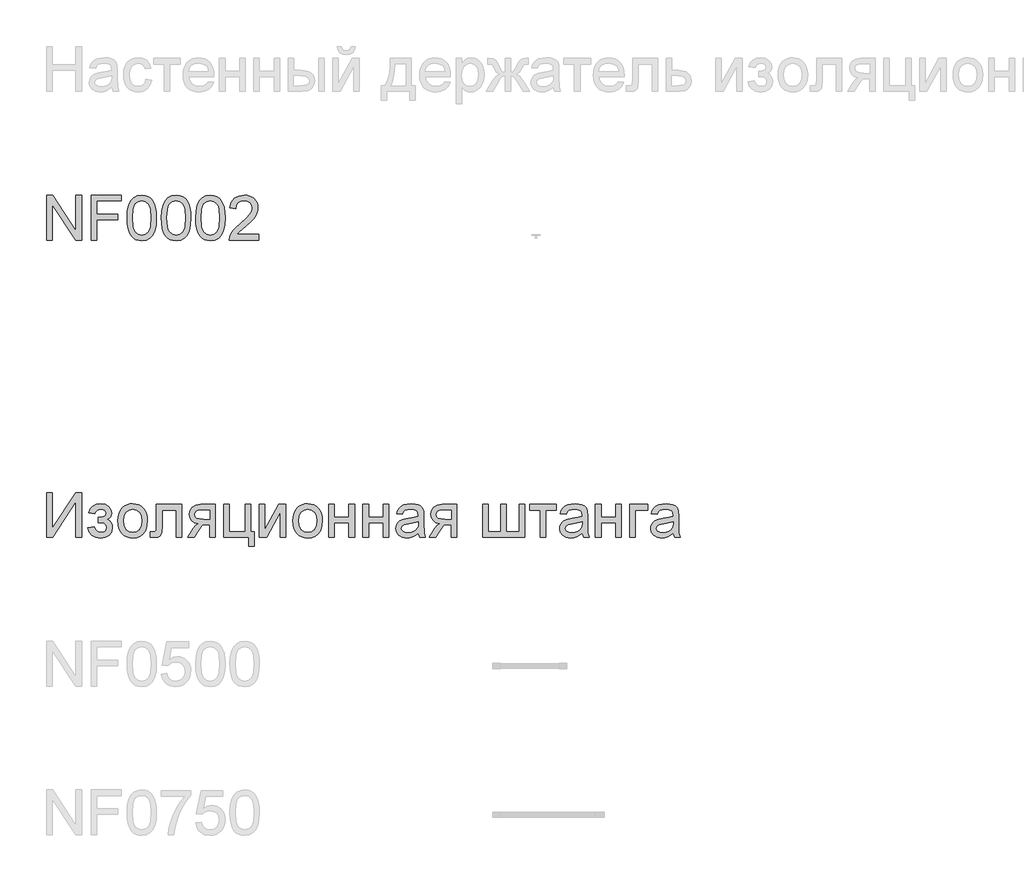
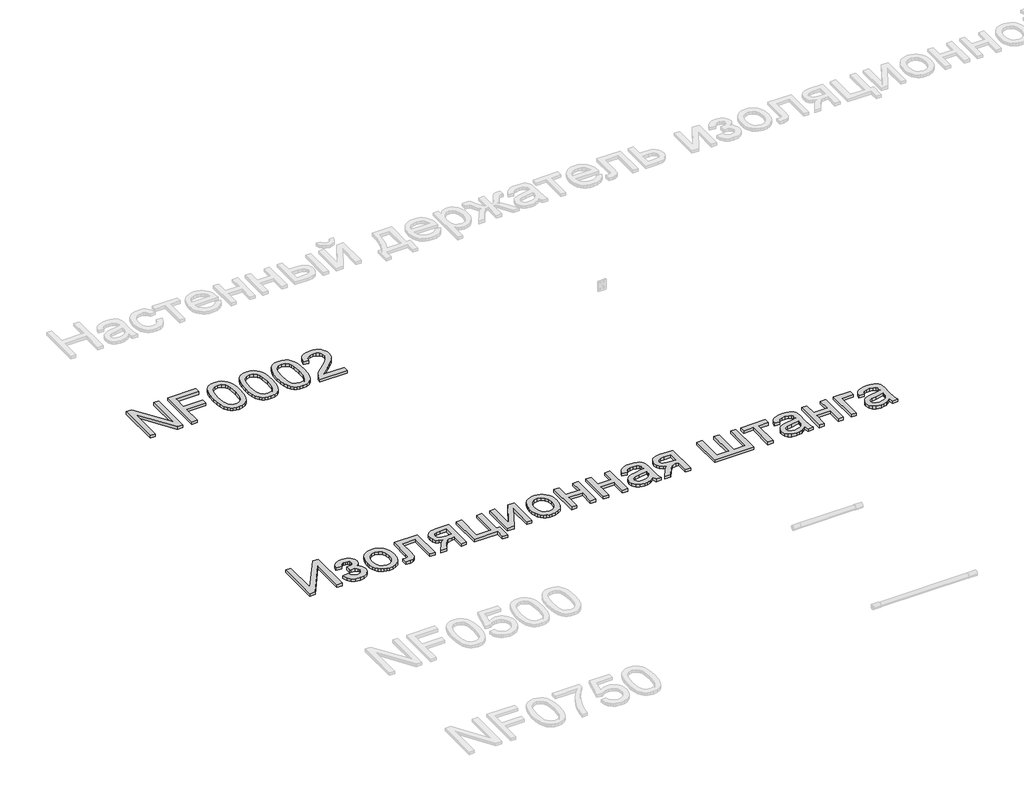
# One storey, part 24 of 124: 2 proxies.
"""IFC4 building model written with IfcOpenShell, lengths in millimetres."""

from ifc_helpers import new_model, si_unit, origin, origin_with_axes, place, context, project, spatial, polyline, outline, extrude, element, save

model = new_model("IFC4")

# Units and contexts
model_context = context("Model", 3, world=origin())
ifc_project = project(units=[si_unit("LENGTHUNIT", "METRE", prefix="MILLI")], contexts=[model_context])

# Site, building, storey
site = spatial("IfcSite", under=ifc_project)
building = spatial("IfcBuilding", under=site)
storey = spatial("IfcBuildingStorey", under=building, Name="Этаж 01", Elevation=0.0)

# Proxies
placement = place(None, origin())
element("IfcBuildingElementProxy", 1, Name="300", ObjectType="300", at=placement, inside=storey, context=model_context, shape_type="SweptSolid", body=[
    extrude(outline(polyline([(25399.8220677, -96548.8731539), (25399.8220677, -96247.5042234), (25440.1419344, -96247.5042234), (25597.5954283, -96486.2596383), (25597.5954283, -96247.5042234), (25635.2665446, -96247.5042234), (25635.2665446, -96548.8731539), (25594.9466779, -96548.8731539), (25437.493184, -96310.0441626), (25437.493184, -96548.8731539), (25399.8220677, -96548.8731539)])), origin_with_axes(), (0.0, 0.0, 1.0), 20.0),
    extrude(outline(polyline([(25701.1909981, -96548.8731539), (25701.1909981, -96247.5042234), (25903.6732483, -96247.5042234), (25903.6732483, -96285.1753397), (25738.8621144, -96285.1753397), (25738.8621144, -96374.644241), (25880.1288006, -96374.644241), (25880.1288006, -96412.3153573), (25738.8621144, -96412.3153573), (25738.8621144, -96548.8731539), (25701.1909981, -96548.8731539)])), origin_with_axes(), (0.0, 0.0, 1.0), 20.0),
    extrude(outline(polyline([(25941.3443646, -96400.6167098), (25944.1126766, -96352.3781832), (25952.4176126, -96313.9069236), (25966.1763993, -96284.6143197), (25985.306263, -96263.9117604), (26009.9451596, -96251.6061077), (26040.2310449, -96247.5042234), (26063.4443988, -96249.9322446), (26084.2297315, -96257.2163081), (26101.6121558, -96269.0713054), (26114.6167843, -96285.2121279), (26124.4392336, -96305.50082), (26132.2751201, -96329.7994258), (26137.4070739, -96360.6555281), (26139.1177252, -96400.6167098), (26136.3770043, -96448.579325), (26128.1548417, -96486.9586141), (26114.4788286, -96516.2788091), (26095.376556, -96537.0641418), (26070.682477, -96549.452568), (26040.2310449, -96553.5820434), (26019.4825004, -96551.7886187), (26001.0884006, -96546.4083445), (25985.0487456, -96537.4412209), (25971.3635354, -96524.8872478), (25958.2301482, -96502.1935272), (25948.8491573, -96473.9171974), (25943.2205628, -96440.0582582), (25941.3443646, -96400.6167098)]), holes=[polyline([(25979.0154809, -96400.5431334), (25983.4300648, -96459.7997258), (25988.9482948, -96480.0677245), (25996.6738167, -96494.0955248), (26016.3922916, -96510.4570765), (26040.2310449, -96515.9109271), (26064.0697982, -96510.4386824), (26083.7882731, -96494.0219484), (26091.513795, -96479.9711555), (26097.032025, -96459.7077553), (26101.4466089, -96400.5431334), (26097.1791778, -96342.6201133), (26091.8448888, -96322.4187932), (26084.3768843, -96308.0575998), (26064.6951976, -96290.8959048), (26039.7895865, -96285.1753397), (26016.2083506, -96290.2153231), (25997.2624279, -96305.3352731), (25989.2793886, -96320.9702579), (25983.5772176, -96342.0498962), (25979.0154809, -96400.5431334)])]), origin_with_axes(), (0.0, 0.0, 1.0), 20.0),
    extrude(outline(polyline([(26172.079952, -96400.6167098), (26174.848264, -96352.3781832), (26183.1532, -96313.9069236), (26196.9119866, -96284.6143197), (26216.0418504, -96263.9117604), (26240.680747, -96251.6061077), (26270.9666323, -96247.5042234), (26294.1799862, -96249.9322446), (26314.9653189, -96257.2163081), (26332.3477432, -96269.0713054), (26345.3523717, -96285.2121279), (26355.174821, -96305.50082), (26363.0107075, -96329.7994258), (26368.1426613, -96360.6555281), (26369.8533126, -96400.6167098), (26367.1125917, -96448.579325), (26358.8904291, -96486.9586141), (26345.2144159, -96516.2788091), (26326.1121433, -96537.0641418), (26301.4180644, -96549.452568), (26270.9666323, -96553.5820434), (26250.2180877, -96551.7886187), (26231.823988, -96546.4083445), (26215.784333, -96537.4412209), (26202.0991228, -96524.8872478), (26188.9657355, -96502.1935272), (26179.5847447, -96473.9171974), (26173.9561501, -96440.0582582), (26172.079952, -96400.6167098)]), holes=[polyline([(26209.7510683, -96400.5431334), (26214.1656522, -96459.7997258), (26219.6838821, -96480.0677245), (26227.409404, -96494.0955248), (26247.127879, -96510.4570765), (26270.9666323, -96515.9109271), (26294.8053856, -96510.4386824), (26314.5238605, -96494.0219484), (26322.2493824, -96479.9711555), (26327.7676123, -96459.7077553), (26332.1821963, -96400.5431334), (26327.9147651, -96342.6201133), (26322.5804762, -96322.4187932), (26315.1124717, -96308.0575998), (26295.430785, -96290.8959048), (26270.5251739, -96285.1753397), (26246.943938, -96290.2153231), (26227.9980152, -96305.3352731), (26220.0149759, -96320.9702579), (26214.312805, -96342.0498962), (26209.7510683, -96400.5431334)])]), origin_with_axes(), (0.0, 0.0, 1.0), 20.0),
    extrude(outline(polyline([(26402.8155393, -96400.6167098), (26405.5838514, -96352.3781832), (26413.8887874, -96313.9069236), (26427.647574, -96284.6143197), (26446.7774378, -96263.9117604), (26471.4163344, -96251.6061077), (26501.7022196, -96247.5042234), (26524.9155735, -96249.9322446), (26545.7009063, -96257.2163081), (26563.0833305, -96269.0713054), (26576.0879591, -96285.2121279), (26585.9104083, -96305.50082), (26593.7462948, -96329.7994258), (26598.8782487, -96360.6555281), (26600.5889, -96400.6167098), (26597.8481791, -96448.579325), (26589.6260165, -96486.9586141), (26575.9500033, -96516.2788091), (26556.8477307, -96537.0641418), (26532.1536518, -96549.452568), (26501.7022196, -96553.5820434), (26480.9536751, -96551.7886187), (26462.5595754, -96546.4083445), (26446.5199204, -96537.4412209), (26432.8347102, -96524.8872478), (26419.7013229, -96502.1935272), (26410.320332, -96473.9171974), (26404.6917375, -96440.0582582), (26402.8155393, -96400.6167098)]), holes=[polyline([(26440.4866556, -96400.5431334), (26444.9012396, -96459.7997258), (26450.4194695, -96480.0677245), (26458.1449914, -96494.0955248), (26477.8634664, -96510.4570765), (26501.7022196, -96515.9109271), (26525.5409729, -96510.4386824), (26545.2594479, -96494.0219484), (26552.9849698, -96479.9711555), (26558.5031997, -96459.7077553), (26562.9177836, -96400.5431334), (26558.6503525, -96342.6201133), (26553.3160636, -96322.4187932), (26545.8480591, -96308.0575998), (26526.1663723, -96290.8959048), (26501.2607613, -96285.1753397), (26477.6795254, -96290.2153231), (26458.7336026, -96305.3352731), (26450.7505633, -96320.9702579), (26445.0483924, -96342.0498962), (26440.4866556, -96400.5431334)])]), origin_with_axes(), (0.0, 0.0, 1.0), 20.0),
    extrude(outline(polyline([(26826.6155978, -96511.2020376), (26826.6155978, -96548.8731539), (26628.8422372, -96548.8731539), (26632.8889391, -96522.900685), (26642.1779595, -96502.6027959), (26655.7711992, -96482.9119122), (26675.4344919, -96462.3013234), (26702.933671, -96439.2443193), (26743.5846315, -96403.1367015), (26767.9752078, -96376.4836509), (26780.1704959, -96354.8521896), (26784.2355919, -96333.8093395), (26780.4004221, -96314.9461902), (26768.8949127, -96299.2652202), (26751.2089858, -96288.6978098), (26728.8325635, -96285.1753397), (26705.334101, -96288.6150364), (26687.077957, -96298.9341264), (26675.2965361, -96315.3232692), (26671.222243, -96336.9731247), (26633.5511267, -96332.2642351), (26642.6837972, -96295.8255235), (26651.2301558, -96281.2895862), (26662.4298633, -96269.2092612), (26676.0254023, -96259.7133072), (26691.7592554, -96252.9304829), (26729.6419039, -96247.5042234), (26749.8317276, -96249.0125396), (26767.8004638, -96253.5374882), (26783.5481125, -96261.0790691), (26797.0746736, -96271.6372823), (26807.9386887, -96284.4303787), (26815.6986996, -96298.676609), (26820.3547061, -96314.3759731), (26821.9067082, -96331.5284711), (26820.2328452, -96349.5454918), (26815.2112559, -96367.2498129), (26806.2993146, -96385.2576365), (26792.9543952, -96404.1851652), (26771.6816189, -96426.7823167), (26738.9861065, -96455.7990091), (26695.6496075, -96492.0353856), (26678.6534593, -96511.2020376), (26826.6155978, -96511.2020376)])), origin_with_axes(), (0.0, 0.0, 1.0), 20.0),
])
element("IfcBuildingElementProxy", 2, Name="300", ObjectType="300", at=placement, inside=storey, context=model_context, shape_type="SweptSolid", body=[
    extrude(outline(polyline([(25399.8220677, -98247.5042234), (25437.493184, -98247.5042234), (25437.493184, -98486.1860619), (25595.2409835, -98247.5042234), (25635.2665446, -98247.5042234), (25635.2665446, -98548.8731539), (25597.5954283, -98548.8731539), (25597.5954283, -98310.853503), (25440.2155108, -98548.8731539), (25399.8220677, -98548.8731539), (25399.8220677, -98247.5042234)])), origin_with_axes(), (0.0, 0.0, 1.0), 20.0),
    extrude(outline(polyline([(25748.2798935, -98449.9864736), (25748.2798935, -98412.3153573), (25778.0047587, -98410.8438293), (25793.0143441, -98403.0079428), (25798.3118449, -98395.6594999), (25800.0776784, -98386.637194), (25797.7140366, -98375.9226309), (25790.6231112, -98367.6176949), (25779.7981835, -98362.292603), (25766.2325349, -98360.5175724), (25752.5197335, -98362.2834059), (25741.0326182, -98367.5809067), (25731.771189, -98376.4100745), (25724.7354458, -98388.7709096), (25682.35544, -98384.06202), (25693.5942349, -98357.2802108), (25710.6823536, -98338.150347), (25733.619796, -98326.6724288), (25762.4065621, -98322.846456), (25793.8972609, -98327.5093603), (25817.7360142, -98341.4980732), (25832.7455996, -98361.9615092), (25837.7487948, -98386.0485828), (25835.9691656, -98398.4094179), (25830.6302781, -98409.4458777), (25821.7321324, -98419.1579624), (25809.2747283, -98427.5456719), (25823.8152642, -98438.0119146), (25834.1803394, -98451.0165432), (25840.3883481, -98466.5963457), (25842.4576843, -98484.7881103), (25837.2061688, -98512.5172157), (25821.4516224, -98534.4889679), (25796.2609027, -98548.8087745), (25762.7008677, -98553.5820434), (25729.8765967, -98549.1674595), (25704.7594535, -98535.9237077), (25687.3494381, -98513.8507879), (25677.6465505, -98482.9487003), (25720.0265563, -98478.2398108), (25726.3725207, -98494.1691012), (25737.0227045, -98506.0516896), (25750.7447029, -98513.4461178), (25766.3061113, -98515.9109271), (25781.4628495, -98513.5472853), (25793.8236845, -98506.4563598), (25802.0458471, -98495.6866144), (25804.786568, -98482.2865128), (25803.0851138, -98471.6731172), (25797.9807511, -98462.4944614), (25783.4862005, -98451.89946), (25755.6375334, -98449.7657444), (25748.2798935, -98449.9864736)])), origin_with_axes(), (0.0, 0.0, 1.0), 20.0),
    extrude(outline(polyline([(25880.1288006, -98438.2142497), (25882.1659471, -98409.5516438), (25888.2773868, -98384.8529663), (25898.4631195, -98364.1182174), (25912.7231454, -98347.3473969), (25927.0797402, -98336.6282353), (25942.9262572, -98328.9716913), (25960.2626962, -98324.3777649), (25979.0890573, -98322.846456), (25999.8720908, -98324.7111579), (26018.6639629, -98330.3052635), (26035.4646738, -98339.6287728), (26050.2742234, -98352.6816859), (26062.3614462, -98369.0225442), (26070.9951767, -98388.2098895), (26076.1754151, -98410.2437218), (26077.9021612, -98435.124041), (26074.8487406, -98473.1814334), (26065.688479, -98502.1521405), (26050.6880906, -98523.8479812), (26030.11429, -98540.0807742), (26005.6777285, -98550.2067261), (25979.0890573, -98553.5820434), (25958.0025212, -98551.7242393), (25939.0359051, -98546.1508271), (25922.189209, -98536.8618067), (25907.4624328, -98523.8571782), (25895.5039687, -98507.3576707), (25886.9622087, -98487.5840135), (25881.8371526, -98464.5362065), (25880.1288006, -98438.2142497)]), holes=[polyline([(25917.7999169, -98438.1406733), (25922.1593185, -98472.2341372), (25935.2375235, -98496.523546), (25954.9192102, -98511.0640818), (25979.0890573, -98515.9109271), (26003.1485398, -98511.0364907), (26022.7934383, -98496.4131814), (26035.8716433, -98471.8018759), (26040.2310449, -98436.963451), (26035.8440521, -98403.8632684), (26022.6830737, -98379.9049535), (26003.010584, -98365.3644176), (25979.0890573, -98360.5175724), (25954.9192102, -98365.3460235), (25935.2375235, -98379.8313771), (25922.1593185, -98404.0656035), (25917.7999169, -98438.1406733)])]), origin_with_axes(), (0.0, 0.0, 1.0), 20.0),
    extrude(outline(polyline([(26139.1177252, -98327.5553456), (26308.6377486, -98327.5553456), (26308.6377486, -98548.6524247), (26270.9666323, -98548.6524247), (26270.9666323, -98365.2264619), (26176.7888415, -98365.2264619), (26176.7888415, -98470.8085945), (26174.2504557, -98519.5161707), (26169.495581, -98530.5434335), (26160.3077281, -98540.0807742), (26146.3650005, -98546.675059), (26127.3455014, -98548.8731539), (26096.7377194, -98546.9601675), (26096.7377194, -98511.2020376), (26113.5867147, -98511.2020376), (26130.6196511, -98508.884381), (26137.425468, -98501.5267411), (26139.1177252, -98468.6748789), (26139.1177252, -98327.5553456)])), origin_with_axes(), (0.0, 0.0, 1.0), 20.0),
    extrude(outline(polyline([(26534.6644464, -98327.5553456), (26534.6644464, -98548.8731539), (26496.9933301, -98548.8731539), (26496.9933301, -98464.1131422), (26476.4655148, -98464.1131422), (26448.5064831, -98468.8956081), (26437.3412646, -98479.3250627), (26422.2397087, -98501.0484945), (26392.2205379, -98548.8731539), (26348.6633097, -98548.8731539), (26386.4815788, -98488.3933539), (26403.1834213, -98466.6883162), (26418.5608887, -98457.0498079), (26392.8091491, -98449.1587391), (26374.7093549, -98434.1675478), (26364.0039889, -98414.2283437), (26360.4355335, -98391.4932363), (26365.3099699, -98365.7047085), (26379.9332792, -98345.2872578), (26403.7904266, -98331.9883236), (26436.3663773, -98327.5553456), (26534.6644464, -98327.5553456)]), holes=[polyline([(26496.9933301, -98365.2264619), (26447.3292608, -98365.2264619), (26421.6786886, -98367.4061627), (26407.1197587, -98373.9452652), (26400.359927, -98383.4090295), (26398.1066498, -98394.3627159), (26401.4267848, -98408.7193108), (26411.3871898, -98418.6797158), (26429.7904866, -98424.5014484), (26458.439297, -98426.4420259), (26496.9933301, -98426.4420259), (26496.9933301, -98365.2264619)])]), origin_with_axes(), (0.0, 0.0, 1.0), 20.0),
    extrude(outline(polyline([(26591.1711209, -98327.5553456), (26628.8422372, -98327.5553456), (26628.8422372, -98511.2020376), (26737.1466966, -98511.2020376), (26737.1466966, -98327.5553456), (26774.8178129, -98327.5553456), (26774.8178129, -98511.2020376), (26798.3622606, -98511.2020376), (26798.3622606, -98610.0887179), (26760.6911443, -98610.0887179), (26760.6911443, -98548.8731539), (26591.1711209, -98548.8731539), (26591.1711209, -98327.5553456)])), origin_with_axes(), (0.0, 0.0, 1.0), 20.0),
    extrude(outline(polyline([(26831.3244873, -98327.5553456), (26868.9956036, -98327.5553456), (26868.9956036, -98496.339605), (26961.5547136, -98327.5553456), (27010.2622898, -98327.5553456), (27010.2622898, -98548.8731539), (26972.5911735, -98548.8731539), (26972.5911735, -98381.1189641), (26880.6206747, -98548.8731539), (26831.3244873, -98548.8731539), (26831.3244873, -98327.5553456)])), origin_with_axes(), (0.0, 0.0, 1.0), 20.0),
    extrude(outline(polyline([(27057.3511852, -98438.2142497), (27059.3883317, -98409.5516438), (27065.4997714, -98384.8529663), (27075.6855041, -98364.1182174), (27089.9455299, -98347.3473969), (27104.3021248, -98336.6282353), (27120.1486417, -98328.9716913), (27137.4850808, -98324.3777649), (27156.3114419, -98322.846456), (27177.0944753, -98324.7111579), (27195.8863475, -98330.3052635), (27212.6870584, -98339.6287728), (27227.4966079, -98352.6816859), (27239.5838307, -98369.0225442), (27248.2175613, -98388.2098895), (27253.3977997, -98410.2437218), (27255.1245458, -98435.124041), (27252.0711252, -98473.1814334), (27242.9108635, -98502.1521405), (27227.9104752, -98523.8479812), (27207.3366746, -98540.0807742), (27182.9001131, -98550.2067261), (27156.3114419, -98553.5820434), (27135.2249058, -98551.7242393), (27116.2582896, -98546.1508271), (27099.4115935, -98536.8618067), (27084.6848174, -98523.8571782), (27072.7263533, -98507.3576707), (27064.1845932, -98487.5840135), (27059.0595372, -98464.5362065), (27057.3511852, -98438.2142497)]), holes=[polyline([(27095.0223015, -98438.1406733), (27099.3817031, -98472.2341372), (27112.459908, -98496.523546), (27132.1415948, -98511.0640818), (27156.3114419, -98515.9109271), (27180.3709243, -98511.0364907), (27200.0158229, -98496.4131814), (27213.0940278, -98471.8018759), (27217.4534295, -98436.963451), (27213.0664367, -98403.8632684), (27199.9054583, -98379.9049535), (27180.2329686, -98365.3644176), (27156.3114419, -98360.5175724), (27132.1415948, -98365.3460235), (27112.459908, -98379.8313771), (27099.3817031, -98404.0656035), (27095.0223015, -98438.1406733)])]), origin_with_axes(), (0.0, 0.0, 1.0), 20.0),
    extrude(outline(polyline([(27297.5045516, -98327.5553456), (27335.1756679, -98327.5553456), (27335.1756679, -98412.3153573), (27434.0623482, -98412.3153573), (27434.0623482, -98327.5553456), (27471.7334645, -98327.5553456), (27471.7334645, -98548.8731539), (27434.0623482, -98548.8731539), (27434.0623482, -98449.9864736), (27335.1756679, -98449.9864736), (27335.1756679, -98548.8731539), (27297.5045516, -98548.8731539), (27297.5045516, -98327.5553456)])), origin_with_axes(), (0.0, 0.0, 1.0), 20.0),
    extrude(outline(polyline([(27528.240139, -98327.5553456), (27565.9112553, -98327.5553456), (27565.9112553, -98412.3153573), (27664.7979356, -98412.3153573), (27664.7979356, -98327.5553456), (27702.4690519, -98327.5553456), (27702.4690519, -98548.8731539), (27664.7979356, -98548.8731539), (27664.7979356, -98449.9864736), (27565.9112553, -98449.9864736), (27565.9112553, -98548.8731539), (27528.240139, -98548.8731539), (27528.240139, -98327.5553456)])), origin_with_axes(), (0.0, 0.0, 1.0), 20.0),
    extrude(outline(polyline([(27900.2424125, -98520.6198167), (27882.2437859, -98536.0524664), (27863.7117304, -98546.1508271), (27844.2231817, -98551.7242393), (27823.3550755, -98553.5820434), (27791.8735738, -98549.1122772), (27768.6510228, -98535.7029785), (27754.3312162, -98515.34071), (27749.5579473, -98490.0120347), (27751.3605691, -98474.395444), (27756.7684344, -98460.213593), (27765.1101586, -98448.0734872), (27775.7143571, -98438.5821317), (27802.0914962, -98426.2212967), (27834.685841, -98420.555914), (27873.2030859, -98414.5962256), (27900.0216833, -98407.6064677), (27900.2424125, -98399.2187582), (27897.6488444, -98382.4065511), (27889.8681402, -98371.4068794), (27872.4673219, -98363.2398991), (27848.2238984, -98360.5175724), (27825.7830967, -98362.3293912), (27810.1113237, -98367.7648477), (27799.4243517, -98377.8172232), (27791.9379531, -98393.4797991), (27754.2668368, -98388.7709096), (27760.8059393, -98368.1695179), (27770.5640092, -98351.9827101), (27784.4515545, -98339.6034809), (27803.3790832, -98330.4248251), (27826.5280577, -98324.7410483), (27853.0799407, -98322.846456), (27878.5465718, -98324.5203191), (27898.7340963, -98329.5419084), (27913.9552139, -98337.0926863), (27924.5226242, -98346.3541155), (27931.5307762, -98357.8044426), (27936.0741188, -98371.9219142), (27937.9135288, -98404.884141), (27937.9135288, -98451.7523072), (27939.8265152, -98517.1985141), (27947.3313079, -98548.8731539), (27909.6601916, -98548.8731539), (27900.2424125, -98520.6198167)]), holes=[polyline([(27900.2424125, -98445.277584), (27839.4683069, -98456.8290787), (27807.0579031, -98462.9359198), (27792.3794115, -98472.8687337), (27787.2290636, -98487.3632843), (27790.0341638, -98498.565291), (27798.4494644, -98507.7439468), (27812.2910245, -98513.869182), (27831.374903, -98515.9109271), (27851.6084127, -98513.6576499), (27869.4874777, -98506.8978182), (27883.9820283, -98496.9374132), (27894.061995, -98485.0824159), (27898.5317612, -98472.8687337), (27900.0216833, -98455.9461619), (27900.2424125, -98445.277584)])]), origin_with_axes(), (0.0, 0.0, 1.0), 20.0),
    extrude(outline(polyline([(28159.2313371, -98327.5553456), (28159.2313371, -98548.8731539), (28121.5602208, -98548.8731539), (28121.5602208, -98464.1131422), (28101.0324055, -98464.1131422), (28073.0733738, -98468.8956081), (28061.9081553, -98479.3250627), (28046.8065994, -98501.0484945), (28016.7874286, -98548.8731539), (27973.2302004, -98548.8731539), (28011.0484695, -98488.3933539), (28027.750312, -98466.6883162), (28043.1277794, -98457.0498079), (28017.3760398, -98449.1587391), (27999.2762456, -98434.1675478), (27988.5708796, -98414.2283437), (27985.0024242, -98391.4932363), (27989.8768606, -98365.7047085), (28004.5001699, -98345.2872578), (28028.3573173, -98331.9883236), (28060.933268, -98327.5553456), (28159.2313371, -98327.5553456)]), holes=[polyline([(28121.5602208, -98365.2264619), (28071.8961515, -98365.2264619), (28046.2455793, -98367.4061627), (28031.6866494, -98373.9452652), (28024.9268177, -98383.4090295), (28022.6735405, -98394.3627159), (28025.9936755, -98408.7193108), (28035.9540805, -98418.6797158), (28054.3573773, -98424.5014484), (28083.0061877, -98426.4420259), (28121.5602208, -98426.4420259), (28121.5602208, -98365.2264619)])]), origin_with_axes(), (0.0, 0.0, 1.0), 20.0),
    extrude(outline(polyline([(28333.46025, -98327.5553456), (28371.1313663, -98327.5553456), (28371.1313663, -98511.2020376), (28455.891378, -98511.2020376), (28455.891378, -98327.5553456), (28493.5624943, -98327.5553456), (28493.5624943, -98511.2020376), (28578.322506, -98511.2020376), (28578.322506, -98327.5553456), (28615.9936223, -98327.5553456), (28615.9936223, -98548.8731539), (28333.46025, -98548.8731539), (28333.46025, -98327.5553456)])), origin_with_axes(), (0.0, 0.0, 1.0), 20.0),
    extrude(outline(polyline([(28648.9558491, -98327.5553456), (28827.8936515, -98327.5553456), (28827.8936515, -98365.2264619), (28757.2603085, -98365.2264619), (28757.2603085, -98548.8731539), (28719.5891922, -98548.8731539), (28719.5891922, -98365.2264619), (28648.9558491, -98365.2264619), (28648.9558491, -98327.5553456)])), origin_with_axes(), (0.0, 0.0, 1.0), 20.0),
    extrude(outline(polyline([(29002.1225645, -98520.6198167), (28984.1239379, -98536.0524664), (28965.5918823, -98546.1508271), (28946.1033336, -98551.7242393), (28925.2352275, -98553.5820434), (28893.7537257, -98549.1122772), (28870.5311748, -98535.7029785), (28856.2113681, -98515.34071), (28851.4380992, -98490.0120347), (28853.240721, -98474.395444), (28858.6485863, -98460.213593), (28866.9903106, -98448.0734872), (28877.5945091, -98438.5821317), (28903.9716482, -98426.2212967), (28936.5659929, -98420.555914), (28975.0832378, -98414.5962256), (29001.9018353, -98407.6064677), (29002.1225645, -98399.2187582), (28999.5289964, -98382.4065511), (28991.7482922, -98371.4068794), (28974.3474738, -98363.2398991), (28950.1040503, -98360.5175724), (28927.6632486, -98362.3293912), (28911.9914756, -98367.7648477), (28901.3045037, -98377.8172232), (28893.8181051, -98393.4797991), (28856.1469888, -98388.7709096), (28862.6860912, -98368.1695179), (28872.4441612, -98351.9827101), (28886.3317065, -98339.6034809), (28905.2592351, -98330.4248251), (28928.4082097, -98324.7410483), (28954.9600927, -98322.846456), (28980.4267238, -98324.5203191), (29000.6142483, -98329.5419084), (29015.8353658, -98337.0926863), (29026.4027761, -98346.3541155), (29033.4109282, -98357.8044426), (29037.9542708, -98371.9219142), (29039.7936808, -98404.884141), (29039.7936808, -98451.7523072), (29041.7066671, -98517.1985141), (29049.2114598, -98548.8731539), (29011.5403435, -98548.8731539), (29002.1225645, -98520.6198167)]), holes=[polyline([(29002.1225645, -98445.277584), (28941.3484589, -98456.8290787), (28908.9380551, -98462.9359198), (28894.2595635, -98472.8687337), (28889.1092155, -98487.3632843), (28891.9143158, -98498.565291), (28900.3296164, -98507.7439468), (28914.1711765, -98513.869182), (28933.255055, -98515.9109271), (28953.4885647, -98513.6576499), (28971.3676297, -98506.8978182), (28985.8621803, -98496.9374132), (28995.9421469, -98485.0824159), (29000.4119132, -98472.8687337), (29001.9018353, -98455.9461619), (29002.1225645, -98445.277584)])]), origin_with_axes(), (0.0, 0.0, 1.0), 20.0),
    extrude(outline(polyline([(29091.5914657, -98327.5553456), (29129.262582, -98327.5553456), (29129.262582, -98412.3153573), (29228.1492623, -98412.3153573), (29228.1492623, -98327.5553456), (29265.8203786, -98327.5553456), (29265.8203786, -98548.8731539), (29228.1492623, -98548.8731539), (29228.1492623, -98449.9864736), (29129.262582, -98449.9864736), (29129.262582, -98548.8731539), (29091.5914657, -98548.8731539), (29091.5914657, -98327.5553456)])), origin_with_axes(), (0.0, 0.0, 1.0), 20.0),
    extrude(outline(polyline([(29322.3270531, -98327.5553456), (29444.7581811, -98327.5553456), (29444.7581811, -98365.2264619), (29359.9981694, -98365.2264619), (29359.9981694, -98548.8731539), (29322.3270531, -98548.8731539), (29322.3270531, -98327.5553456)])), origin_with_axes(), (0.0, 0.0, 1.0), 20.0),
    extrude(outline(polyline([(29614.2782044, -98520.6198167), (29596.2795778, -98536.0524664), (29577.7475223, -98546.1508271), (29558.2589736, -98551.7242393), (29537.3908674, -98553.5820434), (29505.9093657, -98549.1122772), (29482.6868148, -98535.7029785), (29468.3670081, -98515.34071), (29463.5937392, -98490.0120347), (29465.396361, -98474.395444), (29470.8042263, -98460.213593), (29479.1459506, -98448.0734872), (29489.7501491, -98438.5821317), (29516.1272881, -98426.2212967), (29548.7216329, -98420.555914), (29587.2388778, -98414.5962256), (29614.0574752, -98407.6064677), (29614.2782044, -98399.2187582), (29611.6846364, -98382.4065511), (29603.9039322, -98371.4068794), (29586.5031138, -98363.2398991), (29562.2596903, -98360.5175724), (29539.8188886, -98362.3293912), (29524.1471156, -98367.7648477), (29513.4601437, -98377.8172232), (29505.9737451, -98393.4797991), (29468.3026288, -98388.7709096), (29474.8417312, -98368.1695179), (29484.5998011, -98351.9827101), (29498.4873465, -98339.6034809), (29517.4148751, -98330.4248251), (29540.5638497, -98324.7410483), (29567.1157327, -98322.846456), (29592.5823638, -98324.5203191), (29612.7698883, -98329.5419084), (29627.9910058, -98337.0926863), (29638.5584161, -98346.3541155), (29645.5665681, -98357.8044426), (29650.1099108, -98371.9219142), (29651.9493207, -98404.884141), (29651.9493207, -98451.7523072), (29653.8623071, -98517.1985141), (29661.3670998, -98548.8731539), (29623.6959835, -98548.8731539), (29614.2782044, -98520.6198167)]), holes=[polyline([(29614.2782044, -98445.277584), (29553.5040988, -98456.8290787), (29521.0936951, -98462.9359198), (29506.4152035, -98472.8687337), (29501.2648555, -98487.3632843), (29504.0699557, -98498.565291), (29512.4852564, -98507.7439468), (29526.3268164, -98513.869182), (29545.4106949, -98515.9109271), (29565.6442047, -98513.6576499), (29583.5232696, -98506.8978182), (29598.0178203, -98496.9374132), (29608.0977869, -98485.0824159), (29612.5675532, -98472.8687337), (29614.0574752, -98455.9461619), (29614.2782044, -98445.277584)])]), origin_with_axes(), (0.0, 0.0, 1.0), 20.0),
])

save(model, "model.ifc")
